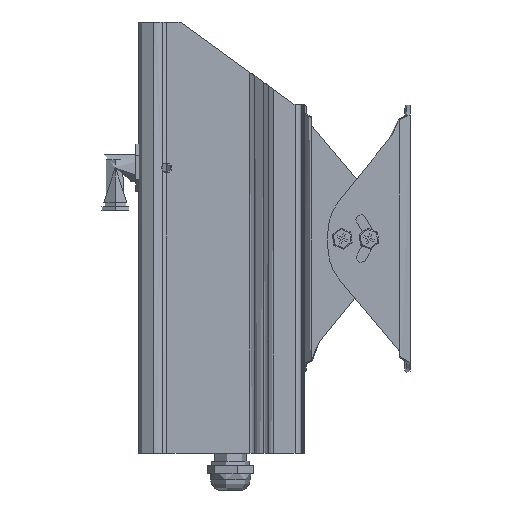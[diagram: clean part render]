
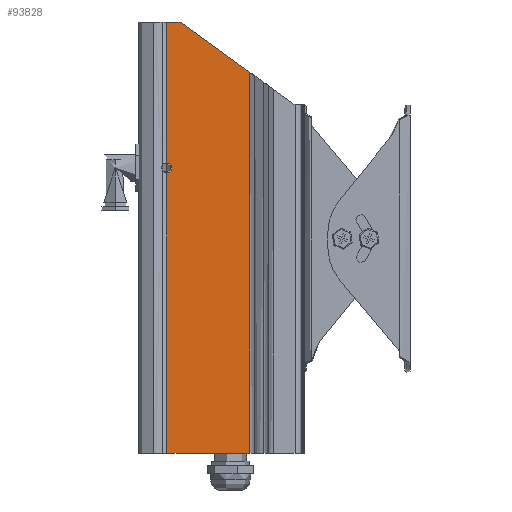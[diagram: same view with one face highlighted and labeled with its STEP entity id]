
A CAD part, left-side view. The second image highlights one B-rep face of the part: STEP entity #93828.
In plain terms, the highlighted planar face has unit normal (-1, 0, 0).
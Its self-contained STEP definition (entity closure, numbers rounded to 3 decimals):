
#2450 = ORIENTED_EDGE ( 'NONE', *, *, #50544, .T. ) ;
#4038 = CIRCLE ( 'NONE', #144313, 2.5 ) ;
#4554 = DIRECTION ( 'NONE',  ( 0., 1., 0. ) ) ;
#5574 = CIRCLE ( 'NONE', #145858, 2.5 ) ;
#12010 = VERTEX_POINT ( 'NONE', #188865 ) ;
#15727 = VERTEX_POINT ( 'NONE', #170482 ) ;
#27111 = DIRECTION ( 'NONE',  ( 1., 0., 0. ) ) ;
#28686 = DIRECTION ( 'NONE',  ( 0., 0., -1. ) ) ;
#30149 = LINE ( 'NONE', #106622, #190537 ) ;
#33135 = CARTESIAN_POINT ( 'NONE',  ( -35.5, 59., 105. ) ) ;
#33470 = DIRECTION ( 'NONE',  ( 0., 0., -1. ) ) ;
#34835 = ORIENTED_EDGE ( 'NONE', *, *, #95841, .F. ) ;
#40594 = VERTEX_POINT ( 'NONE', #195340 ) ;
#42940 = VECTOR ( 'NONE', #128775, 1000. ) ;
#50544 = EDGE_CURVE ( 'NONE', #64331, #12010, #219358, .T. ) ;
#52308 = CARTESIAN_POINT ( 'NONE',  ( -35.5, 0., 105. ) ) ;
#53628 = CARTESIAN_POINT ( 'NONE',  ( -35.5, 65.386, 105. ) ) ;
#59891 = FACE_OUTER_BOUND ( 'NONE', #245063, .T. ) ;
#64331 = VERTEX_POINT ( 'NONE', #135258 ) ;
#65128 = VERTEX_POINT ( 'NONE', #33135 ) ;
#66182 = DIRECTION ( 'NONE',  ( 0., 1., 0. ) ) ;
#67759 = VERTEX_POINT ( 'NONE', #53628 ) ;
#74006 = LINE ( 'NONE', #150537, #96881 ) ;
#79110 = VECTOR ( 'NONE', #28686, 1000. ) ;
#89972 = AXIS2_PLACEMENT_3D ( 'NONE', #99949, #176484, #4554 ) ;
#93828 = ADVANCED_FACE ( 'NONE', ( #59891 ), #136326, .F. ) ;
#94609 = VECTOR ( 'NONE', #33470, 1000. ) ;
#95841 = EDGE_CURVE ( 'NONE', #67759, #65128, #224201, .T. ) ;
#96881 = VECTOR ( 'NONE', #227128, 1000. ) ;
#99949 = CARTESIAN_POINT ( 'NONE',  ( -35.5, 0., 105. ) ) ;
#103607 = DIRECTION ( 'NONE',  ( 0., 1., 0. ) ) ;
#105101 = CARTESIAN_POINT ( 'NONE',  ( -35.5, 0., -105. ) ) ;
#106622 = CARTESIAN_POINT ( 'NONE',  ( -35.5, 24.983, 105. ) ) ;
#116986 = EDGE_CURVE ( 'NONE', #15727, #12010, #30149, .T. ) ;
#118291 = EDGE_CURVE ( 'NONE', #40594, #64331, #123951, .T. ) ;
#123951 = LINE ( 'NONE', #200566, #79110 ) ;
#128773 = LINE ( 'NONE', #205340, #94609 ) ;
#128775 = DIRECTION ( 'NONE',  ( 0., -1., 0. ) ) ;
#135258 = CARTESIAN_POINT ( 'NONE',  ( -35.5, 65.386, -105. ) ) ;
#136326 = PLANE ( 'NONE',  #89972 ) ;
#142799 = EDGE_CURVE ( 'NONE', #65128, #15727, #74006, .T. ) ;
#144313 = AXIS2_PLACEMENT_3D ( 'NONE', #161465, #238112, #66182 ) ;
#145858 = AXIS2_PLACEMENT_3D ( 'NONE', #198979, #27111, #103607 ) ;
#145930 = ORIENTED_EDGE ( 'NONE', *, *, #200615, .T. ) ;
#150537 = CARTESIAN_POINT ( 'NONE',  ( -35.5, 20.17, 77.014 ) ) ;
#153267 = VECTOR ( 'NONE', #181643, 1000. ) ;
#158346 = VERTEX_POINT ( 'NONE', #215796 ) ;
#160569 = ORIENTED_EDGE ( 'NONE', *, *, #118291, .T. ) ;
#161465 = CARTESIAN_POINT ( 'NONE',  ( -35.5, 65.5, 34. ) ) ;
#169776 = ORIENTED_EDGE ( 'NONE', *, *, #222537, .T. ) ;
#170482 = CARTESIAN_POINT ( 'NONE',  ( -35.5, 24.983, 80.483 ) ) ;
#173007 = ORIENTED_EDGE ( 'NONE', *, *, #116986, .F. ) ;
#176484 = DIRECTION ( 'NONE',  ( 1., 0., 0. ) ) ;
#177122 = CARTESIAN_POINT ( 'NONE',  ( -35.5, 63., 34. ) ) ;
#181643 = DIRECTION ( 'NONE',  ( 0., -1., 0. ) ) ;
#183183 = DIRECTION ( 'NONE',  ( 0., 0., -1. ) ) ;
#188865 = CARTESIAN_POINT ( 'NONE',  ( -35.5, 24.983, -105. ) ) ;
#190537 = VECTOR ( 'NONE', #183183, 1000. ) ;
#195340 = CARTESIAN_POINT ( 'NONE',  ( -35.5, 65.386, 31.503 ) ) ;
#198979 = CARTESIAN_POINT ( 'NONE',  ( -35.5, 65.5, 34. ) ) ;
#200566 = CARTESIAN_POINT ( 'NONE',  ( -35.5, 65.386, 105. ) ) ;
#200615 = EDGE_CURVE ( 'NONE', #246297, #40594, #5574, .T. ) ;
#205340 = CARTESIAN_POINT ( 'NONE',  ( -35.5, 65.386, 105. ) ) ;
#215796 = CARTESIAN_POINT ( 'NONE',  ( -35.5, 65.386, 36.497 ) ) ;
#219358 = LINE ( 'NONE', #105101, #153267 ) ;
#219403 = EDGE_CURVE ( 'NONE', #67759, #158346, #128773, .T. ) ;
#222537 = EDGE_CURVE ( 'NONE', #158346, #246297, #4038, .T. ) ;
#224201 = LINE ( 'NONE', #52308, #42940 ) ;
#227128 = DIRECTION ( 'NONE',  ( 0., -0.811, -0.585 ) ) ;
#231555 = ORIENTED_EDGE ( 'NONE', *, *, #142799, .F. ) ;
#233894 = ORIENTED_EDGE ( 'NONE', *, *, #219403, .T. ) ;
#238112 = DIRECTION ( 'NONE',  ( 1., 0., 0. ) ) ;
#245063 = EDGE_LOOP ( 'NONE', ( #233894, #169776, #145930, #160569, #2450, #173007, #231555, #34835 ) ) ;
#246297 = VERTEX_POINT ( 'NONE', #177122 ) ;
